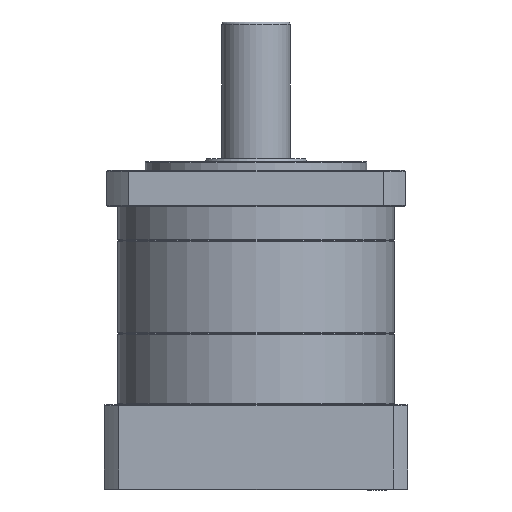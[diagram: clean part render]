
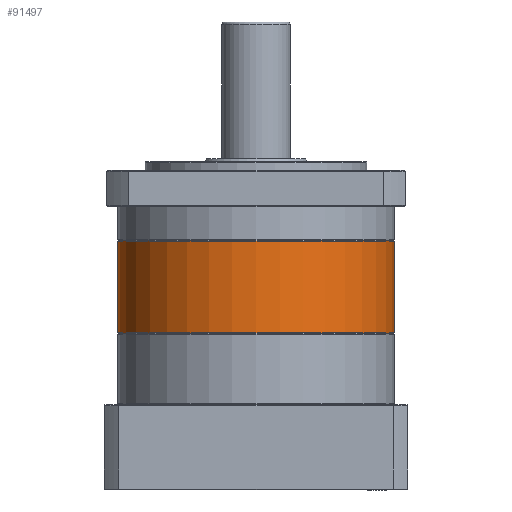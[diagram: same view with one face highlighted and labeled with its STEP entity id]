
A CAD part, front view. The second image highlights one B-rep face of the part: STEP entity #91497.
In plain terms, the highlighted cylindrical face has radius 81 mm (diameter 162 mm), a partial arc.
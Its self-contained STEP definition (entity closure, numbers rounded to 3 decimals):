
#3277 = DIRECTION ( 'NONE',  ( 1., 0., 0. ) ) ;
#5293 = ORIENTED_EDGE ( 'NONE', *, *, #38657, .T. ) ;
#5666 = AXIS2_PLACEMENT_3D ( 'NONE', #26303, #33704, #3277 ) ;
#8247 = ORIENTED_EDGE ( 'NONE', *, *, #20048, .F. ) ;
#14064 = EDGE_CURVE ( 'NONE', #58258, #46286, #52803, .T. ) ;
#14100 = VERTEX_POINT ( 'NONE', #35396 ) ;
#16917 = CARTESIAN_POINT ( 'NONE',  ( 196.446, 56.633, 22.488 ) ) ;
#17092 = DIRECTION ( 'NONE',  ( 0., 0., 1. ) ) ;
#20048 = EDGE_CURVE ( 'NONE', #84913, #58258, #30629, .T. ) ;
#24150 = AXIS2_PLACEMENT_3D ( 'NONE', #94056, #31751, #70801 ) ;
#25530 = VECTOR ( 'NONE', #17092, 1000. ) ;
#25635 = ORIENTED_EDGE ( 'NONE', *, *, #46378, .F. ) ;
#25805 = ORIENTED_EDGE ( 'NONE', *, *, #92222, .T. ) ;
#26037 = CARTESIAN_POINT ( 'NONE',  ( 115.446, 56.633, 75.988 ) ) ;
#26303 = CARTESIAN_POINT ( 'NONE',  ( 196.446, 56.633, 21.988 ) ) ;
#27746 = CARTESIAN_POINT ( 'NONE',  ( 196.446, 56.633, 75.988 ) ) ;
#30629 = CIRCLE ( 'NONE', #24150, 81. ) ;
#31751 = DIRECTION ( 'NONE',  ( 0., 0., -1. ) ) ;
#32452 = DIRECTION ( 'NONE',  ( 0., 0., -1. ) ) ;
#33704 = DIRECTION ( 'NONE',  ( 0., 0., 1. ) ) ;
#35215 = LINE ( 'NONE', #55845, #25530 ) ;
#35396 = CARTESIAN_POINT ( 'NONE',  ( 277.446, 56.633, 22.488 ) ) ;
#37674 = FACE_OUTER_BOUND ( 'NONE', #69573, .T. ) ;
#38657 = EDGE_CURVE ( 'NONE', #14100, #50782, #35215, .T. ) ;
#42577 = CIRCLE ( 'NONE', #56794, 81. ) ;
#46286 = VERTEX_POINT ( 'NONE', #26037 ) ;
#46378 = EDGE_CURVE ( 'NONE', #14100, #84913, #60409, .T. ) ;
#47176 = AXIS2_PLACEMENT_3D ( 'NONE', #16917, #32452, #47884 ) ;
#47884 = DIRECTION ( 'NONE',  ( 0., 1., 0. ) ) ;
#50592 = DIRECTION ( 'NONE',  ( 1., 0., 0. ) ) ;
#50782 = VERTEX_POINT ( 'NONE', #77287 ) ;
#52803 = LINE ( 'NONE', #55940, #94948 ) ;
#55845 = CARTESIAN_POINT ( 'NONE',  ( 277.446, 56.633, 21.988 ) ) ;
#55940 = CARTESIAN_POINT ( 'NONE',  ( 115.446, 56.633, 21.988 ) ) ;
#56794 = AXIS2_PLACEMENT_3D ( 'NONE', #27746, #57715, #50592 ) ;
#57715 = DIRECTION ( 'NONE',  ( 0., 0., -1. ) ) ;
#58258 = VERTEX_POINT ( 'NONE', #95697 ) ;
#59340 = CYLINDRICAL_SURFACE ( 'NONE', #5666, 81. ) ;
#60409 = CIRCLE ( 'NONE', #47176, 81. ) ;
#63124 = CARTESIAN_POINT ( 'NONE',  ( 196.446, -24.367, 22.488 ) ) ;
#69573 = EDGE_LOOP ( 'NONE', ( #84421, #8247, #25635, #5293, #25805 ) ) ;
#70801 = DIRECTION ( 'NONE',  ( 0., 1., 0. ) ) ;
#71115 = DIRECTION ( 'NONE',  ( 0., 0., 1. ) ) ;
#77287 = CARTESIAN_POINT ( 'NONE',  ( 277.446, 56.633, 75.988 ) ) ;
#84421 = ORIENTED_EDGE ( 'NONE', *, *, #14064, .F. ) ;
#84913 = VERTEX_POINT ( 'NONE', #63124 ) ;
#91497 = ADVANCED_FACE ( 'NONE', ( #37674 ), #59340, .T. ) ;
#92222 = EDGE_CURVE ( 'NONE', #50782, #46286, #42577, .T. ) ;
#94056 = CARTESIAN_POINT ( 'NONE',  ( 196.446, 56.633, 22.488 ) ) ;
#94948 = VECTOR ( 'NONE', #71115, 1000. ) ;
#95697 = CARTESIAN_POINT ( 'NONE',  ( 115.446, 56.633, 22.488 ) ) ;
